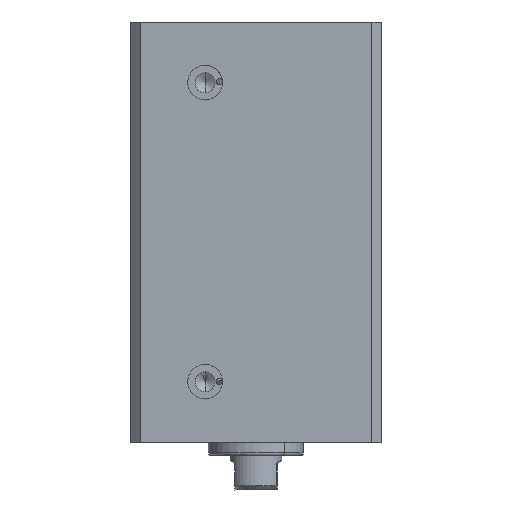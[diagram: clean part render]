
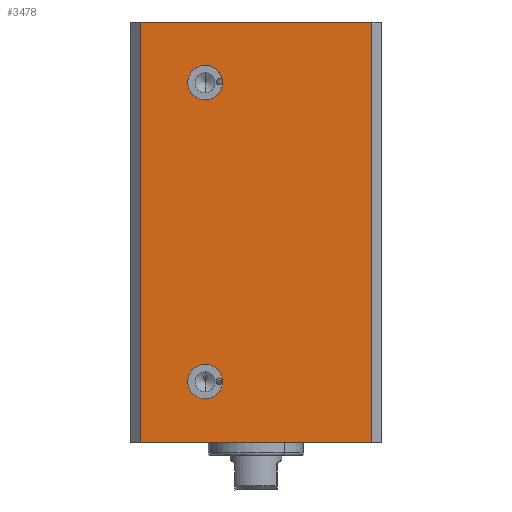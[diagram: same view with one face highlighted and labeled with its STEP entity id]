
A CAD part, front view. The second image highlights one B-rep face of the part: STEP entity #3478.
In plain terms, the highlighted planar face has unit normal (0, -1, 0).
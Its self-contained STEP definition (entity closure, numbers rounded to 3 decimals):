
#19 = DIRECTION ( 'NONE',  ( 0., 0., -1. ) ) ;
#44 = EDGE_CURVE ( 'NONE', #5365, #4115, #6240, .T. ) ;
#113 = CARTESIAN_POINT ( 'NONE',  ( 1.186, -29.072, 24.25 ) ) ;
#187 = ORIENTED_EDGE ( 'NONE', *, *, #6418, .T. ) ;
#205 = VERTEX_POINT ( 'NONE', #5157 ) ;
#272 = DIRECTION ( 'NONE',  ( 0., 0., -1. ) ) ;
#384 = ORIENTED_EDGE ( 'NONE', *, *, #6893, .T. ) ;
#450 = AXIS2_PLACEMENT_3D ( 'NONE', #3142, #6359, #2625 ) ;
#477 = ORIENTED_EDGE ( 'NONE', *, *, #1940, .T. ) ;
#648 = CIRCLE ( 'NONE', #450, 2. ) ;
#655 = FACE_OUTER_BOUND ( 'NONE', #1439, .T. ) ;
#661 = CARTESIAN_POINT ( 'NONE',  ( 8.686, -29.072, 9. ) ) ;
#694 = ORIENTED_EDGE ( 'NONE', *, *, #1581, .F. ) ;
#765 = CARTESIAN_POINT ( 'NONE',  ( 8.686, -29.072, 7. ) ) ;
#794 = CARTESIAN_POINT ( 'NONE',  ( 8.686, -29.072, 5. ) ) ;
#919 = DIRECTION ( 'NONE',  ( 0., 1., 0. ) ) ;
#1083 = VECTOR ( 'NONE', #6428, 1000. ) ;
#1126 = DIRECTION ( 'NONE',  ( 1., 0., 0. ) ) ;
#1322 = DIRECTION ( 'NONE',  ( 0., 0., -1. ) ) ;
#1333 = DIRECTION ( 'NONE',  ( 0., 1., 0. ) ) ;
#1340 = CARTESIAN_POINT ( 'NONE',  ( 8.686, -29.072, 41.5 ) ) ;
#1439 = EDGE_LOOP ( 'NONE', ( #694, #187, #477, #5404 ) ) ;
#1440 = AXIS2_PLACEMENT_3D ( 'NONE', #1340, #1333, #1322 ) ;
#1451 = VERTEX_POINT ( 'NONE', #5490 ) ;
#1545 = AXIS2_PLACEMENT_3D ( 'NONE', #6118, #2901, #6654 ) ;
#1566 = ORIENTED_EDGE ( 'NONE', *, *, #44, .T. ) ;
#1581 = EDGE_CURVE ( 'NONE', #4152, #1660, #5547, .T. ) ;
#1646 = CARTESIAN_POINT ( 'NONE',  ( 27.926, -29.072, 48.5 ) ) ;
#1652 = DIRECTION ( 'NONE',  ( 1., 0., 0. ) ) ;
#1660 = VERTEX_POINT ( 'NONE', #1646 ) ;
#1745 = VECTOR ( 'NONE', #19, 1000. ) ;
#1839 = CARTESIAN_POINT ( 'NONE',  ( 14.556, -29.072, 0. ) ) ;
#1940 = EDGE_CURVE ( 'NONE', #1451, #205, #4177, .T. ) ;
#1951 = EDGE_LOOP ( 'NONE', ( #6465, #1566 ) ) ;
#2456 = CARTESIAN_POINT ( 'NONE',  ( 14.556, -29.072, 48.5 ) ) ;
#2521 = CARTESIAN_POINT ( 'NONE',  ( 8.686, -29.072, 39.5 ) ) ;
#2625 = DIRECTION ( 'NONE',  ( 0., 0., -1. ) ) ;
#2672 = VERTEX_POINT ( 'NONE', #3101 ) ;
#2901 = DIRECTION ( 'NONE',  ( 0., 1., 0. ) ) ;
#3101 = CARTESIAN_POINT ( 'NONE',  ( 8.686, -29.072, 43.5 ) ) ;
#3142 = CARTESIAN_POINT ( 'NONE',  ( 8.686, -29.072, 41.5 ) ) ;
#3332 = FACE_BOUND ( 'NONE', #3637, .T. ) ;
#3478 = ADVANCED_FACE ( 'NONE', ( #3332, #4756, #655 ), #5470, .T. ) ;
#3637 = EDGE_LOOP ( 'NONE', ( #6755, #384 ) ) ;
#3911 = LINE ( 'NONE', #6507, #1083 ) ;
#3992 = VERTEX_POINT ( 'NONE', #2521 ) ;
#4096 = VECTOR ( 'NONE', #1126, 1000. ) ;
#4115 = VERTEX_POINT ( 'NONE', #794 ) ;
#4152 = VERTEX_POINT ( 'NONE', #5130 ) ;
#4177 = LINE ( 'NONE', #1839, #5632 ) ;
#4203 = EDGE_CURVE ( 'NONE', #4115, #5365, #6796, .T. ) ;
#4401 = CIRCLE ( 'NONE', #1440, 2. ) ;
#4756 = FACE_BOUND ( 'NONE', #1951, .T. ) ;
#4905 = AXIS2_PLACEMENT_3D ( 'NONE', #5526, #5445, #5387 ) ;
#5130 = CARTESIAN_POINT ( 'NONE',  ( 1.186, -29.072, 48.5 ) ) ;
#5157 = CARTESIAN_POINT ( 'NONE',  ( 27.926, -29.072, 0. ) ) ;
#5354 = LINE ( 'NONE', #113, #1745 ) ;
#5365 = VERTEX_POINT ( 'NONE', #661 ) ;
#5377 = AXIS2_PLACEMENT_3D ( 'NONE', #765, #919, #272 ) ;
#5387 = DIRECTION ( 'NONE',  ( 1., 0., 0. ) ) ;
#5404 = ORIENTED_EDGE ( 'NONE', *, *, #5804, .T. ) ;
#5445 = DIRECTION ( 'NONE',  ( 0., -1., 0. ) ) ;
#5470 = PLANE ( 'NONE',  #4905 ) ;
#5490 = CARTESIAN_POINT ( 'NONE',  ( 1.186, -29.072, 0. ) ) ;
#5526 = CARTESIAN_POINT ( 'NONE',  ( 1.186, -29.072, 0. ) ) ;
#5547 = LINE ( 'NONE', #2456, #4096 ) ;
#5632 = VECTOR ( 'NONE', #1652, 1000. ) ;
#5804 = EDGE_CURVE ( 'NONE', #205, #1660, #3911, .T. ) ;
#6118 = CARTESIAN_POINT ( 'NONE',  ( 8.686, -29.072, 7. ) ) ;
#6240 = CIRCLE ( 'NONE', #1545, 2. ) ;
#6330 = EDGE_CURVE ( 'NONE', #3992, #2672, #4401, .T. ) ;
#6359 = DIRECTION ( 'NONE',  ( 0., 1., 0. ) ) ;
#6418 = EDGE_CURVE ( 'NONE', #4152, #1451, #5354, .T. ) ;
#6428 = DIRECTION ( 'NONE',  ( 0., 0., 1. ) ) ;
#6465 = ORIENTED_EDGE ( 'NONE', *, *, #4203, .T. ) ;
#6507 = CARTESIAN_POINT ( 'NONE',  ( 27.926, -29.072, 24.25 ) ) ;
#6654 = DIRECTION ( 'NONE',  ( 0., 0., -1. ) ) ;
#6755 = ORIENTED_EDGE ( 'NONE', *, *, #6330, .T. ) ;
#6796 = CIRCLE ( 'NONE', #5377, 2. ) ;
#6893 = EDGE_CURVE ( 'NONE', #2672, #3992, #648, .T. ) ;
